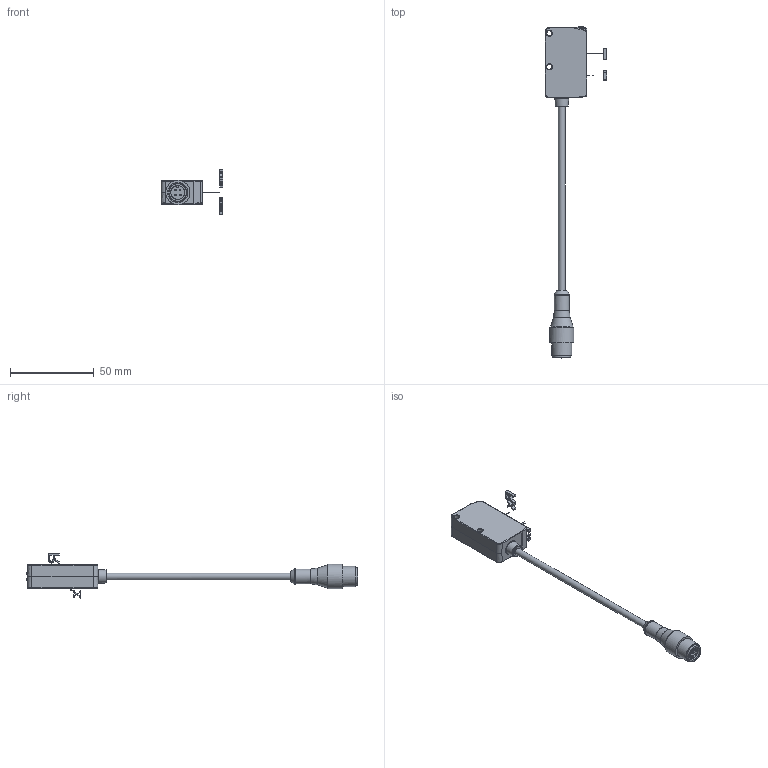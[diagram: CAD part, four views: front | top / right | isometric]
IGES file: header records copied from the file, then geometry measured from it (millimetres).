
Global section: file name: D:\igs\DSD-0191.igs; preprocessor: I-DEAS 3D IGES Translator 11; date: 20080908.123639; units: millimetre
Bounding box: 37 x 198.3 x 26.68 mm (x, y, z)
Surface area: 8574.9 mm2
Topology: 6 solids, 6 shells, 475 faces, 2371 edges, 2179 vertices
Faces by surface type: bspline 475
